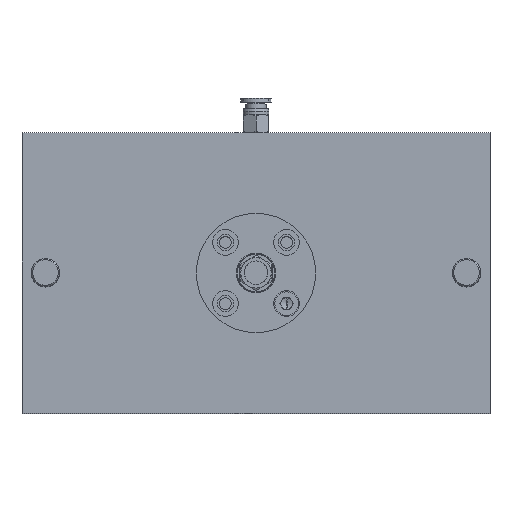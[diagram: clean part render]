
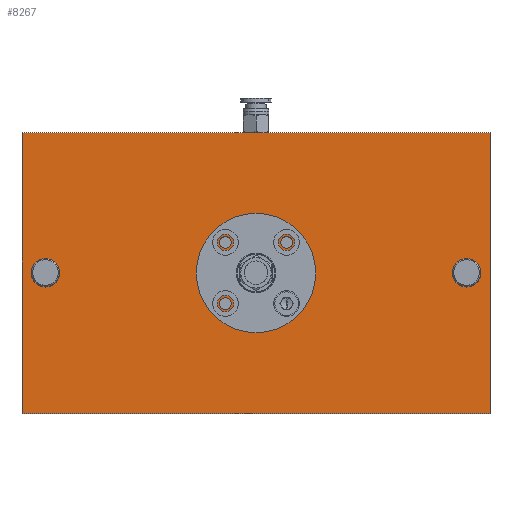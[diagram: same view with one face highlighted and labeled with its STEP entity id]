
A CAD part, top view. The second image highlights one B-rep face of the part: STEP entity #8267.
In plain terms, the highlighted planar face has unit normal (0, 0, 1) as drawn and (0, 1, 0) by its records, which use the part's own axes.
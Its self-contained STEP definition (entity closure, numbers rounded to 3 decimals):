
#12 = DIRECTION ( 'NONE',  ( 0., -1., 0. ) ) ;
#89 = ORIENTED_EDGE ( 'NONE', *, *, #476, .T. ) ;
#119 = EDGE_CURVE ( 'NONE', #3389, #6534, #4185, .T. ) ;
#188 = EDGE_LOOP ( 'NONE', ( #2793, #556, #6168, #89 ) ) ;
#260 = CARTESIAN_POINT ( 'NONE',  ( 90., 20., -60. ) ) ;
#351 = EDGE_CURVE ( 'NONE', #6534, #3389, #446, .T. ) ;
#384 = CARTESIAN_POINT ( 'NONE',  ( -100., 20., -120. ) ) ;
#446 = CIRCLE ( 'NONE', #3051, 2.5 ) ;
#476 = EDGE_CURVE ( 'NONE', #5048, #7255, #5351, .T. ) ;
#556 = ORIENTED_EDGE ( 'NONE', *, *, #3762, .T. ) ;
#629 = VERTEX_POINT ( 'NONE', #2094 ) ;
#681 = DIRECTION ( 'NONE',  ( 0., 1., 0. ) ) ;
#723 = DIRECTION ( 'NONE',  ( 0., -1., 0. ) ) ;
#726 = ORIENTED_EDGE ( 'NONE', *, *, #9155, .T. ) ;
#740 = CIRCLE ( 'NONE', #3198, 3.5 ) ;
#789 = CIRCLE ( 'NONE', #4216, 2.5 ) ;
#794 = DIRECTION ( 'NONE',  ( 0., 0., -1. ) ) ;
#796 = CARTESIAN_POINT ( 'NONE',  ( -13.081, 20., -49.419 ) ) ;
#822 = CARTESIAN_POINT ( 'NONE',  ( 90., 20., -63.5 ) ) ;
#978 = DIRECTION ( 'NONE',  ( 0., 0., 1. ) ) ;
#1209 = CARTESIAN_POINT ( 'NONE',  ( -90., 20., -56.5 ) ) ;
#1221 = AXIS2_PLACEMENT_3D ( 'NONE', #5310, #2349, #4713 ) ;
#1379 = AXIS2_PLACEMENT_3D ( 'NONE', #5908, #12, #794 ) ;
#1520 = CARTESIAN_POINT ( 'NONE',  ( -90., 20., -60. ) ) ;
#1579 = DIRECTION ( 'NONE',  ( 1., 0., 0. ) ) ;
#1585 = CIRCLE ( 'NONE', #1379, 2.5 ) ;
#1655 = DIRECTION ( 'NONE',  ( 0., -1., 0. ) ) ;
#1688 = CARTESIAN_POINT ( 'NONE',  ( -90., 20., -63.5 ) ) ;
#1734 = ORIENTED_EDGE ( 'NONE', *, *, #5307, .F. ) ;
#1798 = FACE_OUTER_BOUND ( 'NONE', #188, .T. ) ;
#1805 = FACE_BOUND ( 'NONE', #2007, .T. ) ;
#1835 = EDGE_CURVE ( 'NONE', #8371, #629, #7176, .T. ) ;
#1915 = AXIS2_PLACEMENT_3D ( 'NONE', #7313, #3501, #9469 ) ;
#2007 = EDGE_LOOP ( 'NONE', ( #1734, #8098 ) ) ;
#2094 = CARTESIAN_POINT ( 'NONE',  ( 90., 20., -56.5 ) ) ;
#2153 = FACE_BOUND ( 'NONE', #8396, .T. ) ;
#2258 = DIRECTION ( 'NONE',  ( 0., 0., 1. ) ) ;
#2349 = DIRECTION ( 'NONE',  ( 0., -1., 0. ) ) ;
#2351 = CIRCLE ( 'NONE', #8764, 2.5 ) ;
#2357 = CARTESIAN_POINT ( 'NONE',  ( 13.081, 20., -70.581 ) ) ;
#2409 = CIRCLE ( 'NONE', #3610, 2.5 ) ;
#2419 = CARTESIAN_POINT ( 'NONE',  ( -13.081, 20., -73.081 ) ) ;
#2423 = DIRECTION ( 'NONE',  ( 0., -1., 0. ) ) ;
#2567 = VERTEX_POINT ( 'NONE', #796 ) ;
#2584 = ORIENTED_EDGE ( 'NONE', *, *, #7165, .T. ) ;
#2620 = CIRCLE ( 'NONE', #1221, 2.5 ) ;
#2723 = DIRECTION ( 'NONE',  ( 0., -1., 0. ) ) ;
#2793 = ORIENTED_EDGE ( 'NONE', *, *, #3909, .T. ) ;
#2797 = EDGE_LOOP ( 'NONE', ( #2584, #8821 ) ) ;
#2877 = FACE_BOUND ( 'NONE', #2797, .T. ) ;
#2925 = VECTOR ( 'NONE', #9428, 1000. ) ;
#3051 = AXIS2_PLACEMENT_3D ( 'NONE', #5561, #3303, #7815 ) ;
#3194 = ORIENTED_EDGE ( 'NONE', *, *, #1835, .F. ) ;
#3198 = AXIS2_PLACEMENT_3D ( 'NONE', #8847, #681, #5159 ) ;
#3247 = EDGE_LOOP ( 'NONE', ( #3260, #5815 ) ) ;
#3260 = ORIENTED_EDGE ( 'NONE', *, *, #119, .T. ) ;
#3270 = EDGE_LOOP ( 'NONE', ( #4403, #3194 ) ) ;
#3303 = DIRECTION ( 'NONE',  ( 0., -1., 0. ) ) ;
#3320 = FACE_BOUND ( 'NONE', #3270, .T. ) ;
#3389 = VERTEX_POINT ( 'NONE', #4672 ) ;
#3392 = DIRECTION ( 'NONE',  ( 0., 0., -1. ) ) ;
#3462 = DIRECTION ( 'NONE',  ( 0., 0., -1. ) ) ;
#3501 = DIRECTION ( 'NONE',  ( 0., 1., 0. ) ) ;
#3505 = VERTEX_POINT ( 'NONE', #7817 ) ;
#3507 = ORIENTED_EDGE ( 'NONE', *, *, #6167, .T. ) ;
#3525 = VECTOR ( 'NONE', #5374, 1000. ) ;
#3548 = DIRECTION ( 'NONE',  ( 0., 0., -1. ) ) ;
#3610 = AXIS2_PLACEMENT_3D ( 'NONE', #7481, #6019, #3769 ) ;
#3717 = CARTESIAN_POINT ( 'NONE',  ( -100., 20., -120. ) ) ;
#3762 = EDGE_CURVE ( 'NONE', #8796, #8009, #4465, .T. ) ;
#3769 = DIRECTION ( 'NONE',  ( 0., 0., -1. ) ) ;
#3775 = AXIS2_PLACEMENT_3D ( 'NONE', #1520, #6720, #2258 ) ;
#3833 = CARTESIAN_POINT ( 'NONE',  ( -100., 20., -120. ) ) ;
#3909 = EDGE_CURVE ( 'NONE', #7255, #8796, #4105, .T. ) ;
#3931 = CARTESIAN_POINT ( 'NONE',  ( -100., 20., 0. ) ) ;
#3941 = DIRECTION ( 'NONE',  ( 0., 1., 0. ) ) ;
#4015 = AXIS2_PLACEMENT_3D ( 'NONE', #2419, #1655, #6257 ) ;
#4105 = LINE ( 'NONE', #3931, #3525 ) ;
#4185 = CIRCLE ( 'NONE', #4015, 2.5 ) ;
#4216 = AXIS2_PLACEMENT_3D ( 'NONE', #8695, #7135, #3462 ) ;
#4268 = CARTESIAN_POINT ( 'NONE',  ( 100., 20., 0. ) ) ;
#4296 = EDGE_CURVE ( 'NONE', #2567, #3505, #2620, .T. ) ;
#4360 = VECTOR ( 'NONE', #3548, 1000. ) ;
#4370 = FACE_BOUND ( 'NONE', #3247, .T. ) ;
#4403 = ORIENTED_EDGE ( 'NONE', *, *, #7535, .F. ) ;
#4408 = DIRECTION ( 'NONE',  ( 0., 0., -1. ) ) ;
#4465 = LINE ( 'NONE', #5282, #8402 ) ;
#4528 = CARTESIAN_POINT ( 'NONE',  ( 13.081, 20., -44.419 ) ) ;
#4589 = LINE ( 'NONE', #4268, #4360 ) ;
#4672 = CARTESIAN_POINT ( 'NONE',  ( -13.081, 20., -75.581 ) ) ;
#4713 = DIRECTION ( 'NONE',  ( 0., 0., -1. ) ) ;
#4832 = FACE_BOUND ( 'NONE', #6497, .T. ) ;
#4845 = AXIS2_PLACEMENT_3D ( 'NONE', #260, #3941, #978 ) ;
#5048 = VERTEX_POINT ( 'NONE', #7791 ) ;
#5156 = VERTEX_POINT ( 'NONE', #9461 ) ;
#5159 = DIRECTION ( 'NONE',  ( 0., 0., 1. ) ) ;
#5201 = AXIS2_PLACEMENT_3D ( 'NONE', #7845, #2723, #3392 ) ;
#5282 = CARTESIAN_POINT ( 'NONE',  ( -100., 20., 0. ) ) ;
#5307 = EDGE_CURVE ( 'NONE', #6948, #6614, #5722, .T. ) ;
#5310 = CARTESIAN_POINT ( 'NONE',  ( -13.081, 20., -46.919 ) ) ;
#5351 = LINE ( 'NONE', #384, #2925 ) ;
#5374 = DIRECTION ( 'NONE',  ( 0., 0., 1. ) ) ;
#5421 = EDGE_CURVE ( 'NONE', #8790, #5156, #2351, .T. ) ;
#5561 = CARTESIAN_POINT ( 'NONE',  ( -13.081, 20., -73.081 ) ) ;
#5564 = CARTESIAN_POINT ( 'NONE',  ( 100., 20., 0. ) ) ;
#5722 = CIRCLE ( 'NONE', #3775, 3.5 ) ;
#5815 = ORIENTED_EDGE ( 'NONE', *, *, #351, .T. ) ;
#5843 = ORIENTED_EDGE ( 'NONE', *, *, #5421, .T. ) ;
#5908 = CARTESIAN_POINT ( 'NONE',  ( 13.081, 20., -73.081 ) ) ;
#6001 = CIRCLE ( 'NONE', #5201, 2.5 ) ;
#6019 = DIRECTION ( 'NONE',  ( 0., -1., 0. ) ) ;
#6098 = CARTESIAN_POINT ( 'NONE',  ( -13.081, 20., -70.581 ) ) ;
#6167 = EDGE_CURVE ( 'NONE', #3505, #2567, #789, .T. ) ;
#6168 = ORIENTED_EDGE ( 'NONE', *, *, #8736, .T. ) ;
#6257 = DIRECTION ( 'NONE',  ( 0., 0., -1. ) ) ;
#6497 = EDGE_LOOP ( 'NONE', ( #726, #5843 ) ) ;
#6534 = VERTEX_POINT ( 'NONE', #6098 ) ;
#6555 = AXIS2_PLACEMENT_3D ( 'NONE', #3717, #723, #4408 ) ;
#6614 = VERTEX_POINT ( 'NONE', #1688 ) ;
#6720 = DIRECTION ( 'NONE',  ( 0., 1., 0. ) ) ;
#6805 = DIRECTION ( 'NONE',  ( 0., 0., -1. ) ) ;
#6820 = CIRCLE ( 'NONE', #1915, 3.5 ) ;
#6948 = VERTEX_POINT ( 'NONE', #1209 ) ;
#6989 = CARTESIAN_POINT ( 'NONE',  ( 13.081, 20., -75.581 ) ) ;
#7135 = DIRECTION ( 'NONE',  ( 0., -1., 0. ) ) ;
#7165 = EDGE_CURVE ( 'NONE', #8541, #8374, #2409, .T. ) ;
#7176 = CIRCLE ( 'NONE', #4845, 3.5 ) ;
#7255 = VERTEX_POINT ( 'NONE', #3833 ) ;
#7313 = CARTESIAN_POINT ( 'NONE',  ( 90., 20., -60. ) ) ;
#7452 = CARTESIAN_POINT ( 'NONE',  ( -100., 20., 0. ) ) ;
#7481 = CARTESIAN_POINT ( 'NONE',  ( 13.081, 20., -73.081 ) ) ;
#7493 = CARTESIAN_POINT ( 'NONE',  ( 13.081, 20., -46.919 ) ) ;
#7535 = EDGE_CURVE ( 'NONE', #629, #8371, #6820, .T. ) ;
#7791 = CARTESIAN_POINT ( 'NONE',  ( 100., 20., -120. ) ) ;
#7815 = DIRECTION ( 'NONE',  ( 0., 0., -1. ) ) ;
#7817 = CARTESIAN_POINT ( 'NONE',  ( -13.081, 20., -44.419 ) ) ;
#7845 = CARTESIAN_POINT ( 'NONE',  ( 13.081, 20., -46.919 ) ) ;
#8009 = VERTEX_POINT ( 'NONE', #5564 ) ;
#8098 = ORIENTED_EDGE ( 'NONE', *, *, #8751, .F. ) ;
#8255 = EDGE_CURVE ( 'NONE', #8374, #8541, #1585, .T. ) ;
#8267 = ADVANCED_FACE ( 'NONE', ( #1805, #3320, #4832, #2877, #4370, #2153, #1798 ), #8861, .F. ) ;
#8371 = VERTEX_POINT ( 'NONE', #822 ) ;
#8374 = VERTEX_POINT ( 'NONE', #2357 ) ;
#8396 = EDGE_LOOP ( 'NONE', ( #8865, #3507 ) ) ;
#8402 = VECTOR ( 'NONE', #1579, 1000. ) ;
#8541 = VERTEX_POINT ( 'NONE', #6989 ) ;
#8695 = CARTESIAN_POINT ( 'NONE',  ( -13.081, 20., -46.919 ) ) ;
#8736 = EDGE_CURVE ( 'NONE', #8009, #5048, #4589, .T. ) ;
#8751 = EDGE_CURVE ( 'NONE', #6614, #6948, #740, .T. ) ;
#8764 = AXIS2_PLACEMENT_3D ( 'NONE', #7493, #2423, #6805 ) ;
#8790 = VERTEX_POINT ( 'NONE', #4528 ) ;
#8796 = VERTEX_POINT ( 'NONE', #7452 ) ;
#8821 = ORIENTED_EDGE ( 'NONE', *, *, #8255, .T. ) ;
#8847 = CARTESIAN_POINT ( 'NONE',  ( -90., 20., -60. ) ) ;
#8861 = PLANE ( 'NONE',  #6555 ) ;
#8865 = ORIENTED_EDGE ( 'NONE', *, *, #4296, .T. ) ;
#9155 = EDGE_CURVE ( 'NONE', #5156, #8790, #6001, .T. ) ;
#9428 = DIRECTION ( 'NONE',  ( -1., 0., 0. ) ) ;
#9461 = CARTESIAN_POINT ( 'NONE',  ( 13.081, 20., -49.419 ) ) ;
#9469 = DIRECTION ( 'NONE',  ( 0., 0., 1. ) ) ;
